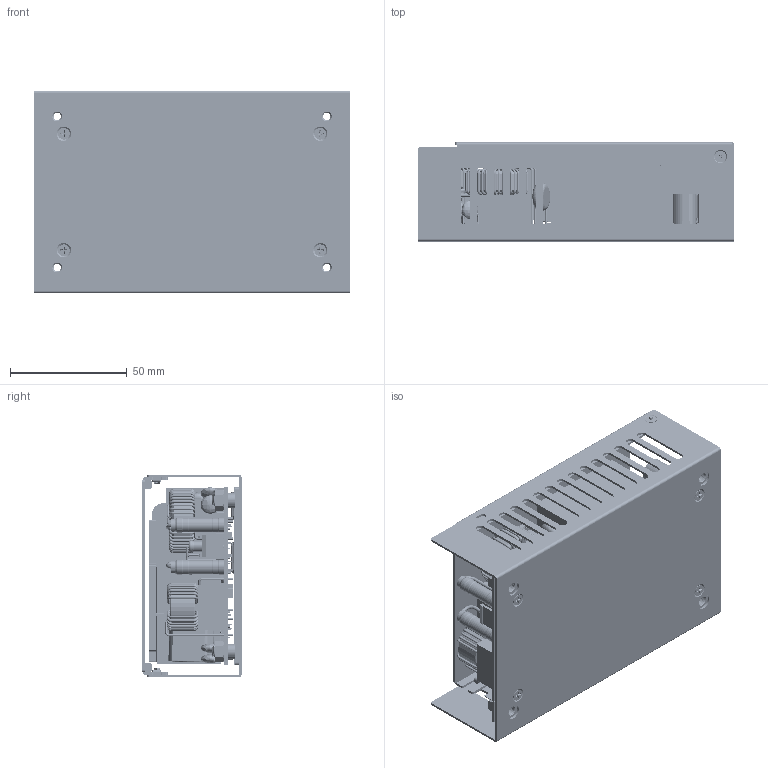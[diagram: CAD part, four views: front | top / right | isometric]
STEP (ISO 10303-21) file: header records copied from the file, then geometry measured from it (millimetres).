
FILE_DESCRIPTION (( 'STEP AP203' ), '1' );
FILE_NAME ('CFM600SXXXC ¦¨«~¹Ï-20260615.STEP', '2026-06-15T01:04:57', ( 'cincon' ), ( '' ), 'SwSTEP 2.0', 'SolidWorks 2020', '' );
FILE_SCHEMA (( 'CONFIG_CONTROL_DESIGN' ));
Length unit declared in the file: millimetre
Products named in the file (59): CFM600S 絕緣片  G612917J204-1130430_成型; CFM500M LPF1變壓器示意圖-10812; CFM500M QE27  Core 示意圖-1081224 ; 溫度開關(參考)-1090513; Electrolitic Capacitor Radial (6.5X12); ¼uÂ®µØ¥q£X4.2(M-B057-00-S)G75M5950131; CFM500M鋁板散熱片 G6612780421(M-B159-00-J)-1130621 未進V1.1版前請抓這個圖檔; CFM600S PCBA-20260331; CFM500M絕緣片C-N3-8 G612914D204 1091008_預設SM-FLAT-PATTERN; CFM500M變壓器C-1090514; CFM500M變壓器A-1090513; 60QC06; CFM300M六角銅柱M5-1040518; CFM500M C3-1090513; CFM500M絕緣片B單背黑色膠帶PET(TKB25)G612914C304-1090408_組裝模擬; CFM600M 電感L2示意圖-20260331; D4; G7424006938 B2P3-VH 2PIN(3孔)插座示意圖-1130620; 6.4x11.6mm電容+熱縮套管-0514; CFM600S ､pPCBA ｱｱ･d-1130619; CFM500M CY1-1081223; WAFER P110I-04 G7424365918 TKP示意圖2023.07.10; 6.4x12mm電容-0514; CFM500M鋁板散熱片 G6612780421(M-B159-00-J)-1090423; CFM500M T2變壓器 BASE-1081227; CFM300M-C 3x5金屬外殼下蓋(M-B127-01-J)-1041001; M3x3mm平頭十字螺絲 G75A3100982 G75A3100981(M-B062-S)V1.0-1110114; b304f-12rgf-104-lx; CFM500M Z1-10812; CFM500M C1 30.8x31.8mm電容; CFM500M CY2-1061211; CFM500M電阻示意圖; CFM300M 6.4mm電容; CFM500M 3M 1350T-3膠帶A G6162000200-1090305; CFM500M 電感示意圖(02)-1081126; CFM500M 3M 1350T-3膠帶C G6162000400-1090305; 平頭十字螺絲M3x4mm G75A1100432示意圖2021.08.04; CFM500M RELAY1; CFM600SXXXC 散熱片(M-B194-J)G6613590121(V1.0)-20250512; CFM500M C61-1081223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
Assembly tree (87 placements, depth 5):
  CFM600SXXXC 成品圖-20260615
    CFM600SXXX & CFM600SXXX-PC & CFM600SXXX-PM 成品圖-20260331_CFM600SXXX&CFM600SXXX-PC
      CFM600S PCBA-20260331
        CFM600S PCB-1130619
        CFM500M變壓器A-1090513
        CFM500M LPF1變壓器示意圖-10812
          CFM500M LPF1 bobbin示意圖-10812
          CFM500M QE27  Core 示意圖-1081224 
          CFM500M QE27  Core 示意圖-1081224 _加膠帶
        CFM500M LPF1變壓器示意圖-10812
          CFM500M LPF1 bobbin示意圖-10812
          CFM500M QE27  Core 示意圖-1081224 
          CFM500M QE27  Core 示意圖-1081224 _加膠帶
        CFM500M C1 30.8x31.8mm電容
        6.4x11.6mm電容+熱縮套管-0514  x2
        10x12.6mm電容+熱縮套管-0513  x2
        10x12.6mm電容  x3
        D4
        Electrolitic Capacitor Radial (6.5X12)
        CFM400M保險絲示意圖2021.03.12  x2
        CFM500M電阻示意圖  x2
        CFM500M RELAY1
        CFM500M C3-1090513
        CFM500M C61-1081223
        CFM600M 電感L2示意圖-20260331
        CFM500M 電感示意圖(02)-1081126
        G7424006938 B2P3-VH 2PIN(3孔)插座示意圖-1130620
        WAFER P110I-04 G7424365918 TKP示意圖2023.07.10
        CFM500M T2變壓器 BASE-1081227
        CFM500M變壓器C-1090514
        60QC06
        PCB-58M4 KY PC板焊接端子2019.10.07  x2
        ¼uÂ®µØ¥q£X4.2(M-B057-00-S)G75M5950131  x2
        M4x6mm螺絲(M-B056-00-S)G75M3200121  x2
        CFM500M CY1-1081223  x4
        CFM500M Z1-10812
        CFM500M CY2-1061211
        OptoCoupler TLP521-2
        6.4x12mm電容-0514
        溫度開關(參考)-1090513
        (參考)Header 1.27 Horizontal 6x-10812_切掉  x2
        CFM500M絕緣片C-N3-8 G612914D204 1091008_預設SM-FLAT-PATTERN
      CFM600S ､pPCBA ｱｱ･d-1130619
        CFM600S ､pPCB ｱｱ･d-1130619
        OptoCoupler TLP521-2  x3
        CFM300M 6.4mm電容
        VR 3362W 
        CFM500M絕緣片B單背黑色膠帶PET(TKB25)G612914C304-1090408_組裝模擬
        b304f-12rgf-104-lx
      螺母M5-1030904  x4
      CFM500M鋁板散熱片 G6612780421(M-B159-00-J)-1130621 未進V1.1版前請抓這個圖檔
        CFM300M六角銅柱M5-1040518  x4
        CFM500M鋁板散熱片 G6612780421(M-B159-00-J)-1090423
      CFM600S 絕緣片  G612917J204-1130430_成型
      CFM600S 黃色絕緣膠帶 G6162005200-1130528
      CFM500M 3M 1350T-3膠帶A G6162000200-1090305
      CFM500M 3M 1350T-3膠帶C G6162000400-1090305
    CF300M-C金屬外殼下蓋(M-B127-01-J)-1041001
      CFM300M-C 3x5金屬外殼下蓋(M-B127-01-J)-1041001
    CFM361S上蓋(M-B101-01-J)G6611510412(CFM500M上蓋)G6612800412-1090508_VR-3362W
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Bounding box: 136 x 42.5 x 87 mm (x, y, z)
Volume: 209951.5 mm3; surface area: 236671 mm2
Topology: 178 solids, 178 shells, 6490 faces, 16759 edges, 10714 vertices
Faces by surface type: plane 2846, cylinder 2230, torus 925, bspline 249, cone 236, sphere 4
Entity records: 177752 total; most frequent: CARTESIAN_POINT 44700, DIRECTION 27689, ORIENTED_EDGE 26062, EDGE_CURVE 13031, AXIS2_PLACEMENT_3D 10498, VERTEX_POINT 8375, VECTOR 6693, LINE 6693
